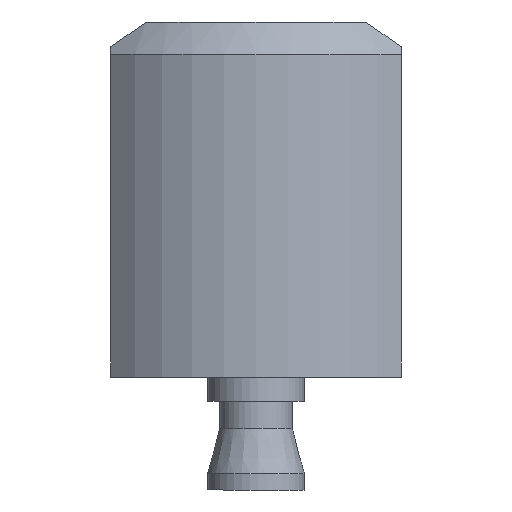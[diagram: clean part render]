
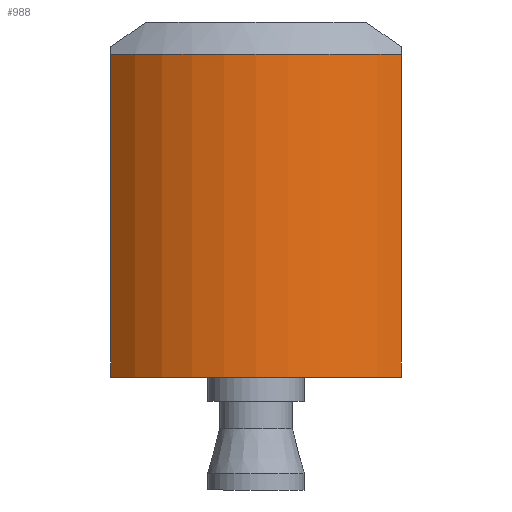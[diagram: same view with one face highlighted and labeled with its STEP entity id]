
A CAD part, front view. The second image highlights one B-rep face of the part: STEP entity #988.
In plain terms, the highlighted cylindrical face has radius 12.5 mm (diameter 25 mm), a partial arc.
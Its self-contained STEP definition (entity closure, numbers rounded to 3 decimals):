
#88=FACE_OUTER_BOUND('',#149,.T.);
#149=EDGE_LOOP('',(#697,#698,#699,#700));
#216=LINE('',#1556,#304);
#217=LINE('',#1558,#305);
#304=VECTOR('',#1215,10.);
#305=VECTOR('',#1218,10.);
#383=CIRCLE('',#1067,12.5);
#387=CIRCLE('',#1075,12.5);
#423=VERTEX_POINT('',#1490);
#424=VERTEX_POINT('',#1492);
#436=VERTEX_POINT('',#1535);
#437=VERTEX_POINT('',#1539);
#516=EDGE_CURVE('',#423,#424,#383,.T.);
#531=EDGE_CURVE('',#436,#437,#387,.T.);
#539=EDGE_CURVE('',#424,#437,#216,.T.);
#540=EDGE_CURVE('',#423,#436,#217,.T.);
#697=ORIENTED_EDGE('',*,*,#531,.F.);
#698=ORIENTED_EDGE('',*,*,#540,.F.);
#699=ORIENTED_EDGE('',*,*,#516,.T.);
#700=ORIENTED_EDGE('',*,*,#539,.T.);
#906=CYLINDRICAL_SURFACE('',#1080,12.5);
#988=ADVANCED_FACE('',(#88),#906,.T.);
#1067=AXIS2_PLACEMENT_3D('',#1494,#1179,#1180);
#1075=AXIS2_PLACEMENT_3D('',#1540,#1199,#1200);
#1080=AXIS2_PLACEMENT_3D('',#1557,#1216,#1217);
#1179=DIRECTION('center_axis',(0.,0.,1.));
#1180=DIRECTION('ref_axis',(-0.72,-0.694,0.));
#1199=DIRECTION('center_axis',(0.,0.,1.));
#1200=DIRECTION('ref_axis',(-0.72,-0.694,0.));
#1215=DIRECTION('',(0.,0.,1.));
#1216=DIRECTION('center_axis',(0.,0.,1.));
#1217=DIRECTION('ref_axis',(-0.72,-0.694,0.));
#1218=DIRECTION('',(0.,0.,1.));
#1490=CARTESIAN_POINT('',(-13.282,-11.465,-9.));
#1492=CARTESIAN_POINT('',(4.718,-11.465,-9.));
#1494=CARTESIAN_POINT('Origin',(-4.282,-2.791,-9.));
#1535=CARTESIAN_POINT('',(-13.282,-11.465,11.));
#1539=CARTESIAN_POINT('',(4.718,-11.465,11.));
#1540=CARTESIAN_POINT('Origin',(-4.282,-2.791,11.));
#1556=CARTESIAN_POINT('',(4.718,-11.465,-9.));
#1557=CARTESIAN_POINT('Origin',(-4.282,-2.791,-9.));
#1558=CARTESIAN_POINT('',(-13.282,-11.465,-9.));
